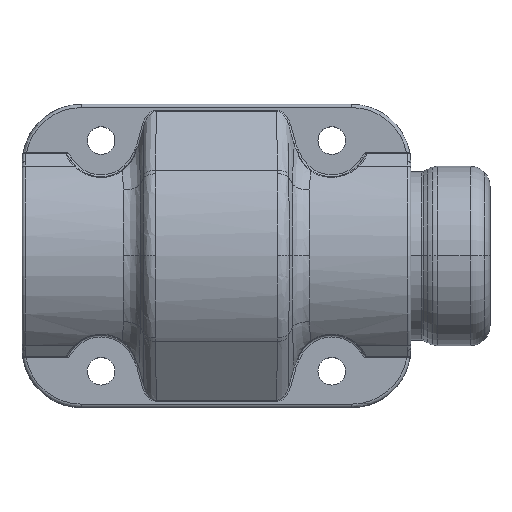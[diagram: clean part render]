
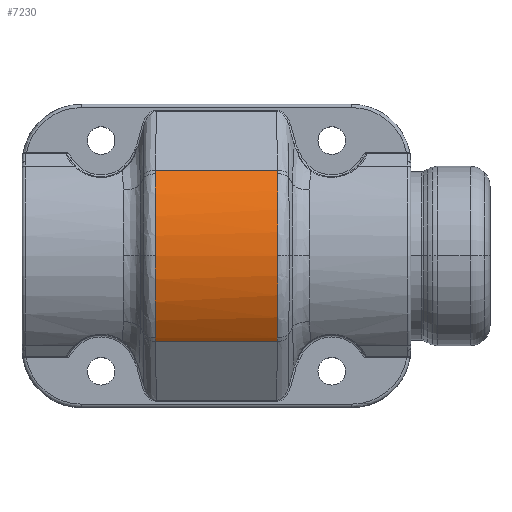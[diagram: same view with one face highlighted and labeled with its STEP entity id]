
A CAD part, top view. The second image highlights one B-rep face of the part: STEP entity #7230.
In plain terms, the highlighted cylindrical face has radius 21.9 mm (diameter 43.8 mm), a partial arc.
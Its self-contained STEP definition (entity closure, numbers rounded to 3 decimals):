
#1719=CARTESIAN_POINT('',(9.259,12.982,17.638));
#1724=CARTESIAN_POINT('',(-9.259,12.982,17.638));
#2753=CARTESIAN_POINT('',(-9.256,12.445,18.02));
#2754=CARTESIAN_POINT('',(-9.258,11.719,18.522));
#2755=CARTESIAN_POINT('',(-9.262,10.206,19.437));
#2756=CARTESIAN_POINT('',(-9.266,7.788,20.526));
#2757=CARTESIAN_POINT('',(-9.269,5.256,21.315));
#2758=CARTESIAN_POINT('',(-9.271,2.647,21.793));
#2759=CARTESIAN_POINT('',(-9.272,0.882,
21.9));
#2760=CARTESIAN_POINT('',(-9.272,0.,
21.9));
#2786=DIRECTION('',(1.,0.,0.));
#2787=VECTOR('',#2786,18.517);
#2788=CARTESIAN_POINT('',(-9.259,12.982,17.638));
#2789=LINE('',#2788,#2787);
#2793=DIRECTION('',(-1.,0.,0.));
#2794=VECTOR('',#2793,18.517);
#2795=CARTESIAN_POINT('',(9.259,-12.982,17.638));
#2796=LINE('',#2795,#2794);
#2800=CARTESIAN_POINT('',(-9.256,-12.446,
18.019));
#2801=CARTESIAN_POINT('',(-9.256,-12.505,
17.979));
#2802=CARTESIAN_POINT('',(-9.257,-12.622,
17.897));
#2803=CARTESIAN_POINT('',(-9.256,-12.801,
17.769));
#2804=CARTESIAN_POINT('',(-9.258,-12.921,
17.682));
#2805=CARTESIAN_POINT('',(-9.259,-12.982,
17.638));
#2860=CARTESIAN_POINT('',(-9.259,-12.982,
17.638));
#2865=CARTESIAN_POINT('',(9.259,-12.982,17.638));
#2976=CARTESIAN_POINT('',(9.259,-12.982,17.638));
#2977=CARTESIAN_POINT('',(9.258,-12.923,17.681));
#2978=CARTESIAN_POINT('',(9.256,-12.804,17.767));
#2979=CARTESIAN_POINT('',(9.257,-12.626,17.895));
#2980=CARTESIAN_POINT('',(9.256,-12.506,17.979));
#2981=CARTESIAN_POINT('',(9.256,-12.445,18.02));
#2995=CARTESIAN_POINT('',(9.256,-12.445,18.02));
#2996=CARTESIAN_POINT('',(9.258,-11.719,18.522));
#2997=CARTESIAN_POINT('',(9.262,-10.206,19.437));
#2998=CARTESIAN_POINT('',(9.266,-7.788,20.526));
#2999=CARTESIAN_POINT('',(9.269,-5.256,21.315));
#3000=CARTESIAN_POINT('',(9.271,-2.647,21.793));
#3001=CARTESIAN_POINT('',(9.272,-0.882,
21.9));
#3002=CARTESIAN_POINT('',(9.272,0.,
21.9));
#3028=CARTESIAN_POINT('',(9.272,0.,
21.9));
#3029=CARTESIAN_POINT('',(9.272,0.883,21.9));
#3030=CARTESIAN_POINT('',(9.271,2.648,21.793));
#3031=CARTESIAN_POINT('',(9.269,5.257,21.315));
#3032=CARTESIAN_POINT('',(9.266,7.789,20.525));
#3033=CARTESIAN_POINT('',(9.262,10.207,19.436));
#3034=CARTESIAN_POINT('',(9.258,11.72,18.521));
#3035=CARTESIAN_POINT('',(9.256,12.446,18.019));
#3063=CARTESIAN_POINT('',(9.256,12.446,18.019));
#3064=CARTESIAN_POINT('',(9.256,12.505,17.979));
#3065=CARTESIAN_POINT('',(9.257,12.622,17.897));
#3066=CARTESIAN_POINT('',(9.256,12.801,17.769));
#3067=CARTESIAN_POINT('',(9.258,12.921,17.682));
#3068=CARTESIAN_POINT('',(9.259,12.982,17.638));
#4112=CARTESIAN_POINT('',(-9.272,0.,
21.9));
#4113=CARTESIAN_POINT('',(-9.272,-0.883,
21.9));
#4114=CARTESIAN_POINT('',(-9.271,-2.648,
21.793));
#4115=CARTESIAN_POINT('',(-9.269,-5.257,
21.315));
#4116=CARTESIAN_POINT('',(-9.266,-7.789,
20.525));
#4117=CARTESIAN_POINT('',(-9.262,-10.207,
19.436));
#4118=CARTESIAN_POINT('',(-9.258,-11.72,
18.521));
#4119=CARTESIAN_POINT('',(-9.256,-12.446,
18.019));
#4147=CARTESIAN_POINT('',(-9.259,12.982,17.638));
#4148=CARTESIAN_POINT('',(-9.258,12.923,17.681));
#4149=CARTESIAN_POINT('',(-9.256,12.804,17.767));
#4150=CARTESIAN_POINT('',(-9.257,12.626,17.895));
#4151=CARTESIAN_POINT('',(-9.256,12.506,17.979));
#4152=CARTESIAN_POINT('',(-9.256,12.445,18.02));
#4467=VERTEX_POINT('',#1724);
#4470=VERTEX_POINT('',#1719);
#4528=VERTEX_POINT('',#2865);
#4531=VERTEX_POINT('',#2860);
#4573=VERTEX_POINT('',#2753);
#4574=VERTEX_POINT('',#2760);
#4575=VERTEX_POINT('',#2800);
#4576=VERTEX_POINT('',#3063);
#4577=VERTEX_POINT('',#3028);
#4578=VERTEX_POINT('',#2995);
#7205=CARTESIAN_POINT('',(-29.5,0.,0.));
#7206=DIRECTION('',(-1.,0.,0.));
#7207=DIRECTION('',(0.,0.,1.));
#7208=AXIS2_PLACEMENT_3D('',#7205,#7206,#7207);
#7209=CYLINDRICAL_SURFACE('',#7208,21.9);
#7211=ORIENTED_EDGE('',*,*,#7210,.F.);
#7213=ORIENTED_EDGE('',*,*,#7212,.F.);
#7214=ORIENTED_EDGE('',*,*,#7195,.F.);
#7216=ORIENTED_EDGE('',*,*,#7215,.F.);
#7217=ORIENTED_EDGE('',*,*,#5625,.T.);
#7219=ORIENTED_EDGE('',*,*,#7218,.F.);
#7221=ORIENTED_EDGE('',*,*,#7220,.F.);
#7223=ORIENTED_EDGE('',*,*,#7222,.F.);
#7225=ORIENTED_EDGE('',*,*,#7224,.F.);
#7227=ORIENTED_EDGE('',*,*,#7226,.T.);
#7228=EDGE_LOOP('',(#7211,#7213,#7214,#7216,#7217,#7219,#7221,#7223,#7225,
#7227));
#7229=FACE_OUTER_BOUND('',#7228,.F.);
#2761=B_SPLINE_CURVE_WITH_KNOTS('',3,(#2753,#2754,#2755,#2756,#2757,#2758,#2759,
#2760),.UNSPECIFIED.,.F.,.F.,(4,1,1,1,1,4),(0.,0.2,0.4,0.6,0.8,1.),
.UNSPECIFIED.);
#2806=B_SPLINE_CURVE_WITH_KNOTS('',3,(#2800,#2801,#2802,#2803,#2804,#2805),
.UNSPECIFIED.,.F.,.F.,(4,1,1,4),(0.,0.333,0.667,1.),
.UNSPECIFIED.);
#2982=B_SPLINE_CURVE_WITH_KNOTS('',3,(#2976,#2977,#2978,#2979,#2980,#2981),
.UNSPECIFIED.,.F.,.F.,(4,1,1,4),(0.,0.333,0.667,1.),
.UNSPECIFIED.);
#3003=B_SPLINE_CURVE_WITH_KNOTS('',3,(#2995,#2996,#2997,#2998,#2999,#3000,#3001,
#3002),.UNSPECIFIED.,.F.,.F.,(4,1,1,1,1,4),(0.,0.2,0.4,0.6,0.8,1.),
.UNSPECIFIED.);
#3036=B_SPLINE_CURVE_WITH_KNOTS('',3,(#3028,#3029,#3030,#3031,#3032,#3033,#3034,
#3035),.UNSPECIFIED.,.F.,.F.,(4,1,1,1,1,4),(0.,0.2,0.4,0.6,0.8,1.),
.UNSPECIFIED.);
#3069=B_SPLINE_CURVE_WITH_KNOTS('',3,(#3063,#3064,#3065,#3066,#3067,#3068),
.UNSPECIFIED.,.F.,.F.,(4,1,1,4),(0.,0.333,0.667,1.),
.UNSPECIFIED.);
#4120=B_SPLINE_CURVE_WITH_KNOTS('',3,(#4112,#4113,#4114,#4115,#4116,#4117,#4118,
#4119),.UNSPECIFIED.,.F.,.F.,(4,1,1,1,1,4),(0.,0.2,0.4,0.6,0.8,1.),
.UNSPECIFIED.);
#4153=B_SPLINE_CURVE_WITH_KNOTS('',3,(#4147,#4148,#4149,#4150,#4151,#4152),
.UNSPECIFIED.,.F.,.F.,(4,1,1,4),(0.,0.333,0.667,1.),
.UNSPECIFIED.);
#5625=EDGE_CURVE('',#4467,#4470,#2789,.T.);
#7195=EDGE_CURVE('',#4573,#4574,#2761,.T.);
#7210=EDGE_CURVE('',#4575,#4531,#2806,.T.);
#7212=EDGE_CURVE('',#4574,#4575,#4120,.T.);
#7215=EDGE_CURVE('',#4467,#4573,#4153,.T.);
#7218=EDGE_CURVE('',#4576,#4470,#3069,.T.);
#7220=EDGE_CURVE('',#4577,#4576,#3036,.T.);
#7222=EDGE_CURVE('',#4578,#4577,#3003,.T.);
#7224=EDGE_CURVE('',#4528,#4578,#2982,.T.);
#7226=EDGE_CURVE('',#4528,#4531,#2796,.T.);
#7230=ADVANCED_FACE('',(#7229),#7209,.T.);
